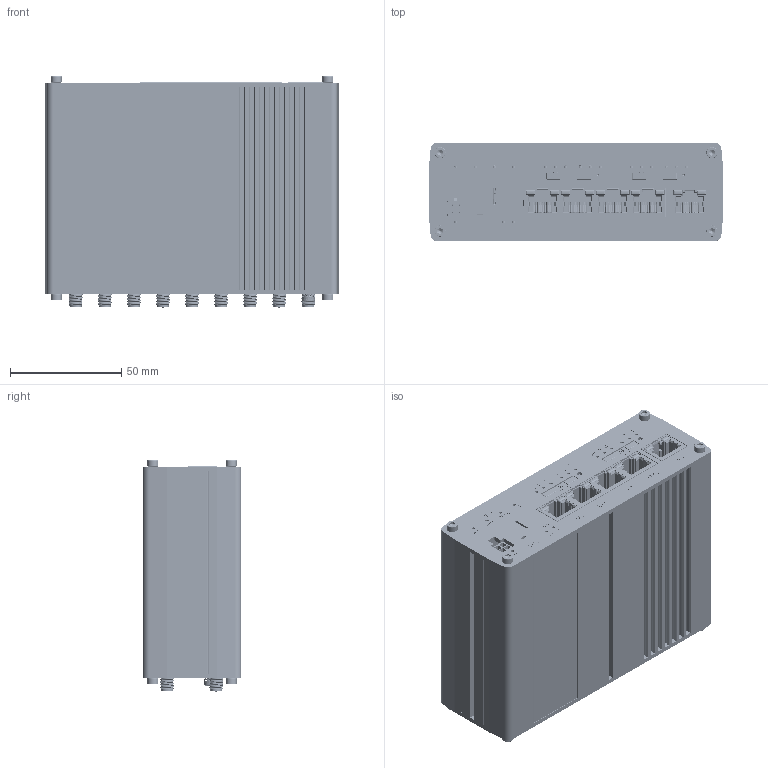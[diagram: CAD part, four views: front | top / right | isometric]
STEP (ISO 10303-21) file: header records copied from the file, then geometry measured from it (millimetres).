
FILE_DESCRIPTION (( 'STEP AP214' ), '1' );
FILE_NAME ('0390_RTM52DAM000X_01.STEP', '2024-03-19T06:55:55', ( '' ), ( '' ), 'SwSTEP 2.0', 'SolidWorks 2023', '' );
FILE_SCHEMA (( 'AUTOMOTIVE_DESIGN' ));
Length unit declared in the file: millimetre
Products named in the file (13): DIN6798_M3; 0085_RUTM52PRBKT_02; 0121_RUTM52PFBKT_01; 0092_RTX12DHB0BCX_01; 0090_RTX12DHT0BCX_01_RUTM52_engraving; RUTM52_MAIN_v1.0_20230929_13_22; 0535_RTX12DPF0BCT_01_Engraving_RUTM52; DIN7985_M3x10; CH-CC-SC-1806214-1_3.03; 0390_RTM52DAM000X_01; SK12 (22x22x3mm) Shore50; RUTM52_RF_v1.0_20230929_13_22; 0084_RUTM52PRBKX_02_RUTM52_engraving
Assembly tree (19 placements, depth 3):
  0390_RTM52DAM000X_01
    0092_RTX12DHB0BCX_01
    0090_RTX12DHT0BCX_01_RUTM52_engraving
    0121_RUTM52PFBKT_01
      0535_RTX12DPF0BCT_01_Engraving_RUTM52
    0085_RUTM52PRBKT_02
      0084_RUTM52PRBKX_02_RUTM52_engraving
    SK12 (22x22x3mm) Shore50
    CH-CC-SC-1806214-1_3.03  x8
    DIN6798_M3
    DIN7985_M3x10
    RUTM52_MAIN_v1.0_20230929_13_22
    RUTM52_RF_v1.0_20230929_13_22
Bounding box: 132 x 44.2 x 103.9 mm (x, y, z)
Volume: 201585.4 mm3; surface area: 213159 mm2
Topology: 177 solids, 180 shells, 15798 faces, 42680 edges, 27788 vertices
Faces by surface type: plane 9642, cylinder 3679, bspline 2170, torus 143, cone 87, sphere 77
Entity records: 730452 total; most frequent: CARTESIAN_POINT 214589, ORIENTED_EDGE 83990, DIRECTION 65122, EDGE_CURVE 41995, VECTOR 28278, LINE 28278, VERTEX_POINT 27462, AXIS2_PLACEMENT_3D 18422
